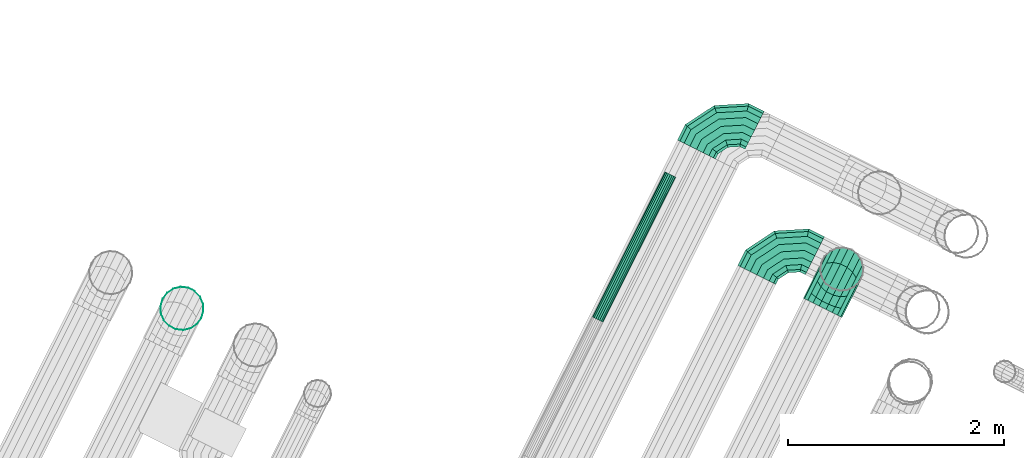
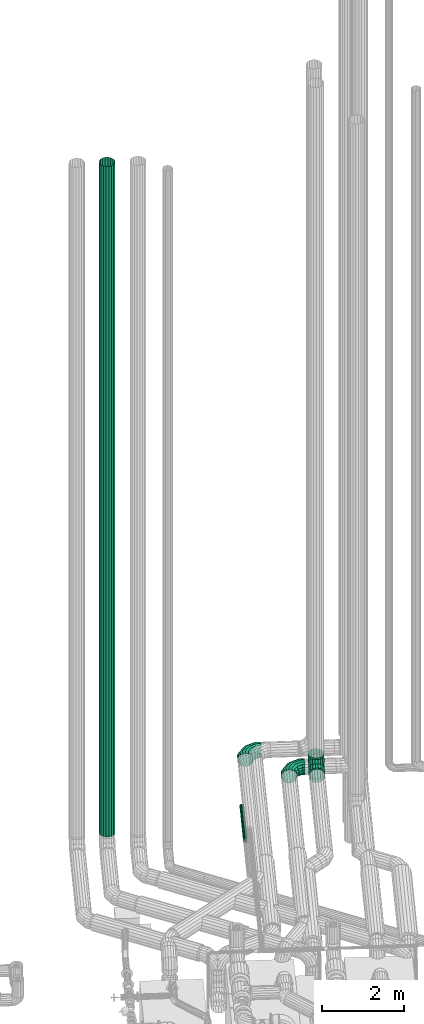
# One storey, part 30 of 206: 3 flow fittings, 2 flow segments.
"""IFC2X3 building model written with IfcOpenShell, lengths in metres."""

from ifc_helpers import new_model, si_unit, derived_unit, direction, frame, origin, place, context, subcontext, project, spatial, face_set, surface_model, source, transform, mapped, material, type_object, type_shapes, element, save


model = new_model("IFC2X3")

# Units and contexts
model_context = context("Model", 3, precision=5.2338327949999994e-05, world=origin(), true_north=direction((0.0, 1.0)))
body_context = subcontext(model_context, "Body", "Model", "MODEL_VIEW")
ifc_project = project(units=[si_unit("LENGTHUNIT", "METRE"), si_unit("AREAUNIT", "SQUARE_METRE"), si_unit("VOLUMEUNIT", "CUBIC_METRE"), si_unit("MASSUNIT", "GRAM", prefix="KILO"), si_unit("PLANEANGLEUNIT", "RADIAN"), derived_unit("THERMALTRANSMITTANCEUNIT", [(si_unit("MASSUNIT", "GRAM", prefix="KILO"), 1), (si_unit("THERMODYNAMICTEMPERATUREUNIT", "KELVIN"), -1), (si_unit("TIMEUNIT", "SECOND"), -3)])], contexts=[model_context])

# Site, building, storey
site_placement = place(None, frame((0.0, 0.0, 0.0), z_axis=(0.0, 0.0, 1.0), x_axis=(0.8939966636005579, -0.4480736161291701, 0.0)))
site = spatial("IfcSite", under=ifc_project, at=site_placement, Name="Default", CompositionType="ELEMENT")
building_placement = place(site_placement, origin())
building = spatial("IfcBuilding", under=site, at=building_placement, CompositionType="ELEMENT")
storey_placement = place(building_placement, origin())
storey = spatial("IfcBuildingStorey", under=building, at=storey_placement, Name="Erdgeschoss", CompositionType="ELEMENT", Elevation=0.0)

# Flow segment
ifc_material_1 = material(Name="IfcSurfaceStyle #251447")
distribution_element_type_1 = type_object("IfcDistributionElementType", Name="Wickelfalzrohr 281330:Wickelfalzrohr 281330", material=ifc_material_1)
shared_shape_1 = source(origin(), body_context, "Body", "SurfaceModel", [
    surface_model("IfcFaceBasedSurfaceModel", [(19.998234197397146, 13.347668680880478, 2.6), (20.010295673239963, 13.279264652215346, 2.6), (20.010295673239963, 13.279264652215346, 22.599999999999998), (19.998234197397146, 13.347668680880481, 22.599999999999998), (20.045025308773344, 13.21911115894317, 2.6), (20.045025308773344, 13.219111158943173, 22.599999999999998), (20.098234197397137, 13.174463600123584, 2.6), (20.098234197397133, 13.174463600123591, 22.599999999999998), (20.16350456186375, 13.15070713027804, 2.6), (20.163504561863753, 13.150707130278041, 22.599999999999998), (20.232963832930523, 13.150707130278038, 2.6), (20.232963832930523, 13.150707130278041, 22.599999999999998), (20.298234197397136, 13.174463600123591, 2.6), (20.298234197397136, 13.1744636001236, 22.599999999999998), (20.35144308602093, 13.219111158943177, 2.6), (20.351443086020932, 13.219111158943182, 22.599999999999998), (20.386172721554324, 13.279264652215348, 2.6), (20.386172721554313, 13.279264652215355, 22.599999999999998), (20.39823419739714, 13.347668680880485, 2.6), (20.398234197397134, 13.347668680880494, 22.599999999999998), (20.386172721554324, 13.416072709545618, 2.6), (20.38617272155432, 13.416072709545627, 22.599999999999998), (20.35144308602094, 13.476226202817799, 2.6), (20.35144308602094, 13.476226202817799, 22.599999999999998), (20.298234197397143, 13.520873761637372, 2.6), (20.29823419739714, 13.520873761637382, 22.599999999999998), (20.232963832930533, 13.544630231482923, 2.6), (20.232963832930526, 13.544630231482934, 22.599999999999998), (20.163504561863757, 13.544630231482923, 2.6), (20.163504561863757, 13.54463023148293, 22.599999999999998), (20.098234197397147, 13.520873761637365, 2.6), (20.098234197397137, 13.520873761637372, 22.599999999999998), (20.045025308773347, 13.476226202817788, 2.6), (20.045025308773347, 13.476226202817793, 22.599999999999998), (20.010295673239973, 13.416072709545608, 2.6), (20.010295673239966, 13.416072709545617, 22.599999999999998)], [face_set([[[0, 1, 2, 3]], [[1, 4, 5, 2]], [[4, 6, 7, 5]], [[6, 8, 9, 7]], [[8, 10, 11, 9]], [[10, 12, 13, 11]], [[12, 14, 15, 13]], [[14, 16, 17, 15]], [[16, 18, 19, 17]], [[18, 20, 21, 19]], [[20, 22, 23, 21]], [[22, 24, 25, 23]], [[24, 26, 27, 25]], [[26, 28, 29, 27]], [[28, 30, 31, 29]], [[30, 32, 33, 31]], [[32, 34, 35, 33]], [[34, 0, 3, 35]]])]),
])
type_shapes(distribution_element_type_1, [shared_shape_1])
flow_segment_1_placement = place(storey_placement, origin())
element("IfcFlowSegment", 1, at=flow_segment_1_placement, inside=storey, type_object=distribution_element_type_1, material=ifc_material_1, Name="Wickelfalzrohr", ObjectType="Wickelfalzrohr", context=body_context, shape_type="MappedRepresentation", body=[
    mapped(shared_shape_1, transform((0.0, 0.0, 0.0), scale=1.0)),
])

# Flow fitting
distribution_element_type_2 = type_object("IfcDistributionElementType", Name="Segmentbogen 4 teilig 295845:Segmentbogen 4 teilig 295845", material=ifc_material_1)
shared_shape_2 = source(origin(), body_context, "Body", "SurfaceModel", [
    surface_model("IfcFaceBasedSurfaceModel", [(25.696428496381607, 16.410000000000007, 2.6000000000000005), (25.684367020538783, 16.341595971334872, 2.6000000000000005), (25.684367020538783, 16.341595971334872, 2.5111491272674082), (25.696428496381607, 16.410000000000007, 2.4928203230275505), (25.649637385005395, 16.2814424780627, 2.6000000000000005), (25.649637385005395, 16.2814424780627, 2.5272672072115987), (25.596428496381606, 16.236794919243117, 2.6000000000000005), (25.596428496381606, 16.236794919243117, 2.5392304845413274), (25.531158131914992, 16.213038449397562, 2.6000000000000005), (25.531158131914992, 16.213038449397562, 2.545596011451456), (25.46169886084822, 16.213038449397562, 2.6000000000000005), (25.46169886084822, 16.213038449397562, 2.545596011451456), (25.396428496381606, 16.236794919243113, 2.6000000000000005), (25.396428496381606, 16.236794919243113, 2.5392304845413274), (25.343219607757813, 16.28144247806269, 2.6000000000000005), (25.343219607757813, 16.28144247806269, 2.5272672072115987), (25.30848997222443, 16.34159597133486, 2.6000000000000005), (25.30848997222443, 16.34159597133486, 2.51114912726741), (25.296428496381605, 16.41, 2.6000000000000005), (25.296428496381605, 16.410000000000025, 2.4928203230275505), (25.30848997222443, 16.478404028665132, 2.6000000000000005), (25.30848997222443, 16.478404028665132, 2.4744915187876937), (25.343219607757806, 16.538557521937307, 2.6000000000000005), (25.343219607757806, 16.538557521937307, 2.4583734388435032), (25.396428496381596, 16.58320508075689, 2.6000000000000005), (25.396428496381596, 16.58320508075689, 2.4464101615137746), (25.461698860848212, 16.606961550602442, 2.6000000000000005), (25.461698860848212, 16.606961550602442, 2.440044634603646), (25.53115813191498, 16.606961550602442, 2.6000000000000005), (25.53115813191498, 16.606961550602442, 2.440044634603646), (25.596428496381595, 16.583205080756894, 2.6000000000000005), (25.596428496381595, 16.583205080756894, 2.4464101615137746), (25.64963738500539, 16.538557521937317, 2.6000000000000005), (25.64963738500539, 16.538557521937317, 2.4583734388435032), (25.684367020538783, 16.478404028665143, 2.6000000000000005), (25.684367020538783, 16.478404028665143, 2.4744915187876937), (25.684367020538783, 16.252745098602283, 2.3572549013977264), (25.696428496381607, 16.302820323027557, 2.30717967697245), (25.6496373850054, 16.2087096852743, 2.4012903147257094), (25.596428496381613, 16.176025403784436, 2.4339745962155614), (25.531158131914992, 16.158634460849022, 2.451365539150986), (25.461698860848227, 16.158634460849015, 2.4513655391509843), (25.39642849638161, 16.176025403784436, 2.4339745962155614), (25.34321960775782, 16.20870968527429, 2.40129031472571), (25.30848997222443, 16.252745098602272, 2.357254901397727), (25.296428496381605, 16.30282032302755, 2.30717967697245), (25.308489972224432, 16.35289554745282, 2.2571044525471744), (25.343219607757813, 16.396930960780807, 2.2130690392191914), (25.3964284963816, 16.429615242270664, 2.180384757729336), (25.46169886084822, 16.44700618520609, 2.162993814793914), (25.531158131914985, 16.44700618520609, 2.1629938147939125), (25.596428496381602, 16.429615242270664, 2.1803847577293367), (25.64963738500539, 16.396930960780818, 2.2130690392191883), (25.684367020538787, 16.35289554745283, 2.2571044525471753), (25.68436702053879, 16.098850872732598, 2.2684040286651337), (25.69642849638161, 16.11717967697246, 2.2), (25.649637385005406, 16.08273279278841, 2.3285575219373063), (25.596428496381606, 16.07076951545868, 2.373205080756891), (25.531158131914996, 16.06440398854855, 2.396961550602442), (25.461698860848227, 16.064403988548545, 2.3969615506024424), (25.39642849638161, 16.07076951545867, 2.37320508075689), (25.34321960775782, 16.082732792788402, 2.3285575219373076), (25.308489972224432, 16.098850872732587, 2.2684040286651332), (25.296428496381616, 16.117179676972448, 2.2000000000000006), (25.308489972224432, 16.135508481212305, 2.1315959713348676), (25.343219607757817, 16.151626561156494, 2.07144247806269), (25.39642849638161, 16.163589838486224, 2.026794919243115), (25.461698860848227, 16.16995536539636, 2.0030384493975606), (25.531158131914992, 16.169955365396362, 2.0030384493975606), (25.596428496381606, 16.163589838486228, 2.026794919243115), (25.6496373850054, 16.151626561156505, 2.0714424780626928), (25.684367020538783, 16.135508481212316, 2.1315959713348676), (25.68436702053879, 16.01000000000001, 2.2684040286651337), (25.696428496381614, 16.01000000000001, 2.2000000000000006), (25.649637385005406, 16.01, 2.3285575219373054), (25.596428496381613, 16.01, 2.3732050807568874), (25.531158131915, 16.01, 2.3969615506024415), (25.46169886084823, 16.01, 2.3969615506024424), (25.39642849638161, 16.01, 2.3732050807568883), (25.34321960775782, 16.01, 2.3285575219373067), (25.30848997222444, 16.009999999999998, 2.2684040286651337), (25.29642849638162, 16.009999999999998, 2.2000000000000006), (25.30848997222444, 16.009999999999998, 2.1315959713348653), (25.34321960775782, 16.01, 2.071442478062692), (25.39642849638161, 16.01, 2.026794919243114), (25.46169886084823, 16.01, 2.003038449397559), (25.531158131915, 16.01, 2.003038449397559), (25.596428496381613, 16.01, 2.026794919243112), (25.64963738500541, 16.01, 2.071442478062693), (25.68436702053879, 16.01000000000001, 2.1315959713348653)], [face_set([[[0, 1, 2, 3]], [[1, 4, 5, 2]], [[4, 6, 7, 5]], [[6, 8, 9, 7]], [[8, 10, 11, 9]], [[10, 12, 13, 11]], [[12, 14, 15, 13]], [[14, 16, 17, 15]], [[16, 18, 19, 17]], [[18, 20, 21, 19]], [[20, 22, 23, 21]], [[22, 24, 25, 23]], [[24, 26, 27, 25]], [[26, 28, 29, 27]], [[28, 30, 31, 29]], [[30, 32, 33, 31]], [[32, 34, 35, 33]], [[34, 0, 3, 35]], [[3, 2, 36, 37]], [[2, 5, 38, 36]], [[5, 7, 39, 38]], [[7, 9, 40, 39]], [[9, 11, 41, 40]], [[11, 13, 42, 41]], [[13, 15, 43, 42]], [[15, 17, 44, 43]], [[17, 19, 45, 44]], [[19, 21, 46, 45]], [[21, 23, 47, 46]], [[23, 25, 48, 47]], [[25, 27, 49, 48]], [[27, 29, 50, 49]], [[29, 31, 51, 50]], [[31, 33, 52, 51]], [[33, 35, 53, 52]], [[35, 3, 37, 53]], [[37, 36, 54, 55]], [[36, 38, 56, 54]], [[38, 39, 57, 56]], [[39, 40, 58, 57]], [[40, 41, 59, 58]], [[41, 42, 60, 59]], [[42, 43, 61, 60]], [[43, 44, 62, 61]], [[44, 45, 63, 62]], [[45, 46, 64, 63]], [[46, 47, 65, 64]], [[47, 48, 66, 65]], [[48, 49, 67, 66]], [[49, 50, 68, 67]], [[50, 51, 69, 68]], [[51, 52, 70, 69]], [[52, 53, 71, 70]], [[53, 37, 55, 71]], [[55, 54, 72, 73]], [[54, 56, 74, 72]], [[56, 57, 75, 74]], [[57, 58, 76, 75]], [[58, 59, 77, 76]], [[59, 60, 78, 77]], [[60, 61, 79, 78]], [[61, 62, 80, 79]], [[62, 63, 81, 80]], [[63, 64, 82, 81]], [[64, 65, 83, 82]], [[65, 66, 84, 83]], [[66, 67, 85, 84]], [[67, 68, 86, 85]], [[68, 69, 87, 86]], [[69, 70, 88, 87]], [[70, 71, 89, 88]], [[71, 55, 73, 89]]])]),
])
type_shapes(distribution_element_type_2, [shared_shape_2])
flow_fitting_1_placement = place(storey_placement, origin())
element("IfcFlowFitting", 2, at=flow_fitting_1_placement, inside=storey, type_object=distribution_element_type_2, material=ifc_material_1, Name="Segmentbogen 4 teilig", ObjectType="Segmentbogen 4 teilig", context=body_context, shape_type="MappedRepresentation", body=[
    mapped(shared_shape_2, transform((0.0, 0.0, 0.0), scale=1.0)),
])

# Flow segment
ifc_material_2 = material(Name="IfcSurfaceStyle #352577")
distribution_element_type_3 = type_object("IfcDistributionElementType", Name="Stahlrohr nach DIN 2448 615305:Stahlrohr nach DIN 2448 615305", material=ifc_material_2)
shared_shape_3 = source(origin(), body_context, "Body", "SurfaceModel", [
    surface_model("IfcFaceBasedSurfaceModel", [(23.68383026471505, 14.980492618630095, 1.114300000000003), (23.70337671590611, 14.980492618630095, 1.1108534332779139), (23.70337671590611, 16.48219129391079, 1.1108534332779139), (23.68383026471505, 16.48219129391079, 1.114300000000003), (23.72056557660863, 14.980492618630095, 1.10092943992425), (23.72056557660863, 16.48219129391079, 1.1009294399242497), (23.73332361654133, 14.980492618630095, 1.0857250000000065), (23.73332361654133, 16.48219129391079, 1.0857250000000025), (23.74011202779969, 14.980492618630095, 1.0670739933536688), (23.740112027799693, 16.48219129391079, 1.0670739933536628), (23.740112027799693, 14.980492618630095, 1.047226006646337), (23.740112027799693, 16.48219129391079, 1.0472260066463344), (23.73332361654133, 14.980492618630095, 1.0285750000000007), (23.73332361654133, 16.48219129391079, 1.0285750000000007), (23.72056557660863, 14.980492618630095, 1.0133705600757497), (23.72056557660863, 16.48219129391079, 1.013370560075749), (23.703376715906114, 14.980492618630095, 1.0034465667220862), (23.70337671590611, 16.48219129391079, 1.003446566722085), (23.68383026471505, 14.980492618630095, 1.0), (23.68383026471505, 16.48219129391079, 1.0), (23.66428381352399, 14.980492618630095, 1.0034465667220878), (23.664283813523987, 16.48219129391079, 1.0034465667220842), (23.647094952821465, 14.980492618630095, 1.0133705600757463), (23.647094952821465, 16.48219129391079, 1.0133705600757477), (23.634336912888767, 14.980492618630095, 1.0285749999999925), (23.634336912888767, 16.48219129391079, 1.0285749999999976), (23.627548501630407, 14.980492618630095, 1.047226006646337), (23.627548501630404, 16.48219129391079, 1.0472260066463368), (23.6275485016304, 14.980492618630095, 1.067073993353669), (23.6275485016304, 16.48219129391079, 1.0670739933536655), (23.63433691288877, 14.980492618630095, 1.0857250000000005), (23.63433691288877, 16.48219129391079, 1.085725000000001), (23.64709495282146, 14.980492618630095, 1.100929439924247), (23.64709495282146, 16.48219129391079, 1.1009294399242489), (23.664283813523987, 14.980492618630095, 1.1108534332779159), (23.664283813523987, 16.48219129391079, 1.1108534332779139)], [face_set([[[0, 1, 2, 3]], [[1, 4, 5, 2]], [[4, 6, 7, 5]], [[6, 8, 9, 7]], [[8, 10, 11, 9]], [[10, 12, 13, 11]], [[12, 14, 15, 13]], [[14, 16, 17, 15]], [[16, 18, 19, 17]], [[18, 20, 21, 19]], [[20, 22, 23, 21]], [[22, 24, 25, 23]], [[24, 26, 27, 25]], [[26, 28, 29, 27]], [[28, 30, 31, 29]], [[30, 32, 33, 31]], [[32, 34, 35, 33]], [[34, 0, 3, 35]]])]),
])
type_shapes(distribution_element_type_3, [shared_shape_3])
flow_segment_2_placement = place(storey_placement, origin())
element("IfcFlowSegment", 3, at=flow_segment_2_placement, inside=storey, type_object=distribution_element_type_3, material=ifc_material_2, Name="Stahlrohr nach DIN 2448", ObjectType="Stahlrohr nach DIN 2448", context=body_context, shape_type="MappedRepresentation", body=[
    mapped(shared_shape_3, transform((0.0, 0.0, 0.0), scale=1.0)),
])

# Flow fittings
distribution_element_type_4 = type_object("IfcDistributionElementType", Name="Segmentbogen 4 teilig 620645:Segmentbogen 4 teilig 620645", material=ifc_material_1)
shared_shape_4 = source(origin(), body_context, "Body", "SurfaceModel", [
    surface_model("IfcFaceBasedSurfaceModel", [(24.815704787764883, 16.01, 2.4100000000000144), (24.884108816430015, 16.01, 2.397938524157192), (24.884108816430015, 16.098850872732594, 2.397938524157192), (24.815704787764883, 16.11717967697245, 2.4100000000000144), (24.94426230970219, 16.01, 2.363208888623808), (24.94426230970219, 16.082732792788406, 2.363208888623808), (24.988909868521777, 16.01, 2.3100000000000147), (24.988909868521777, 16.07076951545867, 2.3100000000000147), (25.012666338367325, 16.01, 2.2447296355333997), (25.012666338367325, 16.06440398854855, 2.2447296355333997), (25.01266633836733, 16.01, 2.1752703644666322), (25.01266633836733, 16.06440398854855, 2.1752703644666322), (24.988909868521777, 16.01, 2.1100000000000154), (24.988909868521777, 16.07076951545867, 2.1100000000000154), (24.9442623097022, 16.01, 2.0567911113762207), (24.9442623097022, 16.082732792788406, 2.0567911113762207), (24.884108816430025, 16.01, 2.0220614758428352), (24.884108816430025, 16.09885087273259, 2.0220614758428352), (24.815704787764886, 16.01, 2.0100000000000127), (24.81570478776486, 16.11717967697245, 2.010000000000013), (24.747300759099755, 16.01, 2.022061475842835), (24.747300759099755, 16.13550848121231, 2.022061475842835), (24.68714726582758, 16.01, 2.0567911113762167), (24.68714726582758, 16.151626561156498, 2.0567911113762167), (24.642499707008, 16.01, 2.1100000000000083), (24.642499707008, 16.163589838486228, 2.1100000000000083), (24.618743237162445, 16.01, 2.175270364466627), (24.618743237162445, 16.169955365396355, 2.175270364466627), (24.618743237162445, 16.01, 2.244729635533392), (24.618743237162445, 16.169955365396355, 2.244729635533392), (24.642499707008, 16.01, 2.3100000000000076), (24.642499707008, 16.163589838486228, 2.3100000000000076), (24.687147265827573, 16.01, 2.3632088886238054), (24.687147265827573, 16.151626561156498, 2.3632088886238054), (24.74730075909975, 16.01, 2.3979385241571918), (24.74730075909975, 16.13550848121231, 2.3979385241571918), (24.972959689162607, 16.252745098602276, 2.397938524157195), (24.922884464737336, 16.302820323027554, 2.410000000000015), (25.01699510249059, 16.208709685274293, 2.363208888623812), (25.049679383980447, 16.176025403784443, 2.3100000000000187), (25.067070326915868, 16.158634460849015, 2.2447296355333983), (25.067070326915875, 16.15863446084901, 2.1752703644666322), (25.04967938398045, 16.176025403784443, 2.1100000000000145), (25.0169951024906, 16.208709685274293, 2.056791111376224), (24.972959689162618, 16.252745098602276, 2.0220614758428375), (24.92288446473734, 16.302820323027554, 2.0100000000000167), (24.872809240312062, 16.352895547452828, 2.0220614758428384), (24.82877382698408, 16.396930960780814, 2.056791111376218), (24.796089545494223, 16.429615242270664, 2.110000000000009), (24.7786986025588, 16.447006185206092, 2.1752703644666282), (24.778698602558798, 16.44700618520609, 2.244729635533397), (24.796089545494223, 16.429615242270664, 2.3100000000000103), (24.828773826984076, 16.396930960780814, 2.363208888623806), (24.87280924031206, 16.352895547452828, 2.3979385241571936), (25.126853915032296, 16.34159597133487, 2.3979385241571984), (25.108525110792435, 16.410000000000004, 2.4100000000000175), (25.142971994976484, 16.281442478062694, 2.3632088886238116), (25.154935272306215, 16.236794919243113, 2.310000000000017), (25.16130079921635, 16.213038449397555, 2.244729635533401), (25.161300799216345, 16.21303844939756, 2.1752703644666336), (25.154935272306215, 16.236794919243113, 2.110000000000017), (25.14297199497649, 16.281442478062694, 2.0567911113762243), (25.1268539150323, 16.34159597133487, 2.022061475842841), (25.108525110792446, 16.410000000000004, 2.0100000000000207), (25.09019630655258, 16.478404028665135, 2.0220614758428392), (25.074078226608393, 16.53855752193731, 2.0567911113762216), (25.062114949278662, 16.58320508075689, 2.1100000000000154), (25.055749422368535, 16.606961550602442, 2.175270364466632), (25.05574942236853, 16.606961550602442, 2.244729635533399), (25.062114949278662, 16.58320508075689, 2.310000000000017), (25.07407822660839, 16.53855752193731, 2.363208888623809), (25.090196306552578, 16.47840402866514, 2.3979385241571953), (25.215704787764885, 16.34159597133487, 2.3979385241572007), (25.215704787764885, 16.410000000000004, 2.4100000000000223), (25.215704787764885, 16.281442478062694, 2.3632088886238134), (25.21570478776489, 16.236794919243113, 2.3100000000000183), (25.21570478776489, 16.21303844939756, 2.244729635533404), (25.215704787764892, 16.21303844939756, 2.175270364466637), (25.21570478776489, 16.236794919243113, 2.1100000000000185), (25.215704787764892, 16.281442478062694, 2.056791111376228), (25.215704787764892, 16.34159597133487, 2.022061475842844), (25.215704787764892, 16.410000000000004, 2.0100000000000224), (25.215704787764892, 16.47840402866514, 2.0220614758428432), (25.215704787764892, 16.53855752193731, 2.056791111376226), (25.21570478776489, 16.583205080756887, 2.110000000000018), (25.215704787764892, 16.606961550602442, 2.175270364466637), (25.21570478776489, 16.606961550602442, 2.244729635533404), (25.21570478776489, 16.58320508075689, 2.310000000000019), (25.215704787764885, 16.53855752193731, 2.3632088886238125), (25.215704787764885, 16.47840402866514, 2.3979385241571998)], [face_set([[[0, 1, 2, 3]], [[1, 4, 5, 2]], [[4, 6, 7, 5]], [[6, 8, 9, 7]], [[8, 10, 11, 9]], [[10, 12, 13, 11]], [[12, 14, 15, 13]], [[14, 16, 17, 15]], [[16, 18, 19, 17]], [[18, 20, 21, 19]], [[20, 22, 23, 21]], [[22, 24, 25, 23]], [[24, 26, 27, 25]], [[26, 28, 29, 27]], [[28, 30, 31, 29]], [[30, 32, 33, 31]], [[32, 34, 35, 33]], [[34, 0, 3, 35]], [[3, 2, 36, 37]], [[2, 5, 38, 36]], [[5, 7, 39, 38]], [[7, 9, 40, 39]], [[9, 11, 41, 40]], [[11, 13, 42, 41]], [[13, 15, 43, 42]], [[15, 17, 44, 43]], [[17, 19, 45, 44]], [[19, 21, 46, 45]], [[21, 23, 47, 46]], [[23, 25, 48, 47]], [[25, 27, 49, 48]], [[27, 29, 50, 49]], [[29, 31, 51, 50]], [[31, 33, 52, 51]], [[33, 35, 53, 52]], [[35, 3, 37, 53]], [[37, 36, 54, 55]], [[36, 38, 56, 54]], [[38, 39, 57, 56]], [[39, 40, 58, 57]], [[40, 41, 59, 58]], [[41, 42, 60, 59]], [[42, 43, 61, 60]], [[43, 44, 62, 61]], [[44, 45, 63, 62]], [[45, 46, 64, 63]], [[46, 47, 65, 64]], [[47, 48, 66, 65]], [[48, 49, 67, 66]], [[49, 50, 68, 67]], [[50, 51, 69, 68]], [[51, 52, 70, 69]], [[52, 53, 71, 70]], [[53, 37, 55, 71]], [[55, 54, 72, 73]], [[54, 56, 74, 72]], [[56, 57, 75, 74]], [[57, 58, 76, 75]], [[58, 59, 77, 76]], [[59, 60, 78, 77]], [[60, 61, 79, 78]], [[61, 62, 80, 79]], [[62, 63, 81, 80]], [[63, 64, 82, 81]], [[64, 65, 83, 82]], [[65, 66, 84, 83]], [[66, 67, 85, 84]], [[67, 68, 86, 85]], [[68, 69, 87, 86]], [[69, 70, 88, 87]], [[70, 71, 89, 88]], [[71, 55, 73, 89]]])]),
])
type_shapes(distribution_element_type_4, [shared_shape_4])
flow_fitting_2_placement = place(storey_placement, origin())
element("IfcFlowFitting", 4, at=flow_fitting_2_placement, inside=storey, type_object=distribution_element_type_4, material=ifc_material_1, Name="Segmentbogen 4 teilig", ObjectType="Segmentbogen 4 teilig", context=body_context, shape_type="MappedRepresentation", body=[
    mapped(shared_shape_4, transform((0.0, 0.0, 0.0), scale=1.0)),
])
distribution_element_type_5 = type_object("IfcDistributionElementType", Name="Segmentbogen 4 teilig 620668:Segmentbogen 4 teilig 620668", material=ifc_material_1)
shared_shape_5 = source(origin(), body_context, "Body", "SurfaceModel", [
    surface_model("IfcFaceBasedSurfaceModel", [(23.796582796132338, 16.797595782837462, 2.4000000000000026), (23.86498682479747, 16.797595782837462, 2.3879385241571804), (23.86498682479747, 16.886446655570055, 2.3879385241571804), (23.796582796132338, 16.904775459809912, 2.4000000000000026), (23.925140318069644, 16.797595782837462, 2.3532088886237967), (23.925140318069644, 16.870328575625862, 2.3532088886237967), (23.969787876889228, 16.797595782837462, 2.300000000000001), (23.969787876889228, 16.858365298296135, 2.300000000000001), (23.99354434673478, 16.797595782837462, 2.234729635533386), (23.99354434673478, 16.851999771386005, 2.234729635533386), (23.99354434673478, 16.797595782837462, 2.1652703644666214), (23.99354434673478, 16.851999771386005, 2.1652703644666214), (23.969787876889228, 16.797595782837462, 2.100000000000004), (23.969787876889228, 16.858365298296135, 2.100000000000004), (23.92514031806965, 16.797595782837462, 2.0467911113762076), (23.92514031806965, 16.870328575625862, 2.0467911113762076), (23.864986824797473, 16.797595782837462, 2.012061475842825), (23.864986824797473, 16.886446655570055, 2.012061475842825), (23.79658279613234, 16.797595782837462, 2.0), (23.796582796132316, 16.904775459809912, 2.0), (23.72817876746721, 16.797595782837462, 2.012061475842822), (23.72817876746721, 16.92310426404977, 2.012061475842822), (23.668025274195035, 16.797595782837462, 2.0467911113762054), (23.668025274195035, 16.93922234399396, 2.0467911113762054), (23.623377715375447, 16.797595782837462, 2.099999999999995), (23.623377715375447, 16.95118562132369, 2.099999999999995), (23.5996212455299, 16.797595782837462, 2.165270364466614), (23.5996212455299, 16.957551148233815, 2.165270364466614), (23.59962124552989, 16.797595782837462, 2.2347296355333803), (23.59962124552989, 16.957551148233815, 2.2347296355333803), (23.623377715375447, 16.797595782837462, 2.299999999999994), (23.623377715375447, 16.95118562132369, 2.299999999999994), (23.668025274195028, 16.797595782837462, 2.353208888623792), (23.668025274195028, 16.93922234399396, 2.353208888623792), (23.728178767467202, 16.797595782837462, 2.3879385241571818), (23.728178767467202, 16.92310426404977, 2.3879385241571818), (23.953837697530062, 17.040340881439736, 2.3879385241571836), (23.903762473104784, 17.09041610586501, 2.4000000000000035), (23.997873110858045, 16.996305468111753, 2.3532088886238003), (24.030557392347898, 16.9636211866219, 2.300000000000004), (24.047948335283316, 16.94623024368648, 2.234729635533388), (24.047948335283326, 16.94623024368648, 2.165270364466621), (24.0305573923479, 16.9636211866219, 2.1000000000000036), (23.99787311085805, 16.99630546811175, 2.0467911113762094), (23.953837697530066, 17.040340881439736, 2.0120614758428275), (23.903762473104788, 17.09041610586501, 2.0), (23.85368724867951, 17.14049133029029, 2.012061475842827), (23.809651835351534, 17.18452674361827, 2.0467911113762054), (23.776967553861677, 17.217211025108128, 2.0999999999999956), (23.759576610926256, 17.234601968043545, 2.165270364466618), (23.759576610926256, 17.234601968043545, 2.234729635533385), (23.776967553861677, 17.217211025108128, 2.299999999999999), (23.809651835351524, 17.18452674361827, 2.3532088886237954), (23.853687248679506, 17.14049133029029, 2.387938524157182), (24.107731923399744, 17.12919175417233, 2.387938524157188), (24.08940311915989, 17.19759578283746, 2.400000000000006), (24.123850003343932, 17.069038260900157, 2.3532088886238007), (24.135813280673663, 17.024390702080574, 2.3000000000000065), (24.142178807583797, 17.000634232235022, 2.2347296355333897), (24.1421788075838, 17.000634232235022, 2.1652703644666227), (24.135813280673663, 17.024390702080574, 2.100000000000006), (24.12385000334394, 17.069038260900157, 2.0467911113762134), (24.107731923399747, 17.12919175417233, 2.0120614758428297), (24.089403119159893, 17.19759578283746, 2.0), (24.071074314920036, 17.265999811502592, 2.0120614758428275), (24.054956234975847, 17.326153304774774, 2.0467911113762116), (24.042992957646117, 17.370800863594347, 2.1000000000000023), (24.036627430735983, 17.3945573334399, 2.1652703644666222), (24.036627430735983, 17.3945573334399, 2.234729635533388), (24.042992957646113, 17.370800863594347, 2.3000000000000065), (24.054956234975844, 17.32615330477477, 2.3532088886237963), (24.071074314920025, 17.265999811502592, 2.387938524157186), (24.196582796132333, 17.12919175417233, 2.3879385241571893), (24.196582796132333, 17.19759578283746, 2.4000000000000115), (24.196582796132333, 17.069038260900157, 2.353208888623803), (24.196582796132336, 17.02439070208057, 2.3000000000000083), (24.196582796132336, 17.000634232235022, 2.2347296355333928), (24.196582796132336, 17.000634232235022, 2.165270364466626), (24.196582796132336, 17.024390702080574, 2.1000000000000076), (24.19658279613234, 17.069038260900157, 2.046791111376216), (24.19658279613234, 17.12919175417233, 2.0120614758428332), (24.196582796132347, 17.19759578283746, 2.0), (24.19658279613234, 17.265999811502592, 2.0120614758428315), (24.19658279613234, 17.32615330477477, 2.0467911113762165), (24.196582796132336, 17.370800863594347, 2.100000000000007), (24.19658279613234, 17.394557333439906, 2.1652703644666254), (24.196582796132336, 17.394557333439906, 2.2347296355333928), (24.196582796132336, 17.370800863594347, 2.300000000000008), (24.196582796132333, 17.32615330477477, 2.3532088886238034), (24.196582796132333, 17.265999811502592, 2.3879385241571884)], [face_set([[[0, 1, 2, 3]], [[1, 4, 5, 2]], [[4, 6, 7, 5]], [[6, 8, 9, 7]], [[8, 10, 11, 9]], [[10, 12, 13, 11]], [[12, 14, 15, 13]], [[14, 16, 17, 15]], [[16, 18, 19, 17]], [[18, 20, 21, 19]], [[20, 22, 23, 21]], [[22, 24, 25, 23]], [[24, 26, 27, 25]], [[26, 28, 29, 27]], [[28, 30, 31, 29]], [[30, 32, 33, 31]], [[32, 34, 35, 33]], [[34, 0, 3, 35]], [[3, 2, 36, 37]], [[2, 5, 38, 36]], [[5, 7, 39, 38]], [[7, 9, 40, 39]], [[9, 11, 41, 40]], [[11, 13, 42, 41]], [[13, 15, 43, 42]], [[15, 17, 44, 43]], [[17, 19, 45, 44]], [[19, 21, 46, 45]], [[21, 23, 47, 46]], [[23, 25, 48, 47]], [[25, 27, 49, 48]], [[27, 29, 50, 49]], [[29, 31, 51, 50]], [[31, 33, 52, 51]], [[33, 35, 53, 52]], [[35, 3, 37, 53]], [[37, 36, 54, 55]], [[36, 38, 56, 54]], [[38, 39, 57, 56]], [[39, 40, 58, 57]], [[40, 41, 59, 58]], [[41, 42, 60, 59]], [[42, 43, 61, 60]], [[43, 44, 62, 61]], [[44, 45, 63, 62]], [[45, 46, 64, 63]], [[46, 47, 65, 64]], [[47, 48, 66, 65]], [[48, 49, 67, 66]], [[49, 50, 68, 67]], [[50, 51, 69, 68]], [[51, 52, 70, 69]], [[52, 53, 71, 70]], [[53, 37, 55, 71]], [[55, 54, 72, 73]], [[54, 56, 74, 72]], [[56, 57, 75, 74]], [[57, 58, 76, 75]], [[58, 59, 77, 76]], [[59, 60, 78, 77]], [[60, 61, 79, 78]], [[61, 62, 80, 79]], [[62, 63, 81, 80]], [[63, 64, 82, 81]], [[64, 65, 83, 82]], [[65, 66, 84, 83]], [[66, 67, 85, 84]], [[67, 68, 86, 85]], [[68, 69, 87, 86]], [[69, 70, 88, 87]], [[70, 71, 89, 88]], [[71, 55, 73, 89]]])]),
])
type_shapes(distribution_element_type_5, [shared_shape_5])
flow_fitting_3_placement = place(storey_placement, origin())
element("IfcFlowFitting", 5, at=flow_fitting_3_placement, inside=storey, type_object=distribution_element_type_5, material=ifc_material_1, Name="Segmentbogen 4 teilig", ObjectType="Segmentbogen 4 teilig", context=body_context, shape_type="MappedRepresentation", body=[
    mapped(shared_shape_5, transform((0.0, 0.0, 0.0), scale=1.0)),
])

save(model, "model.ifc")
